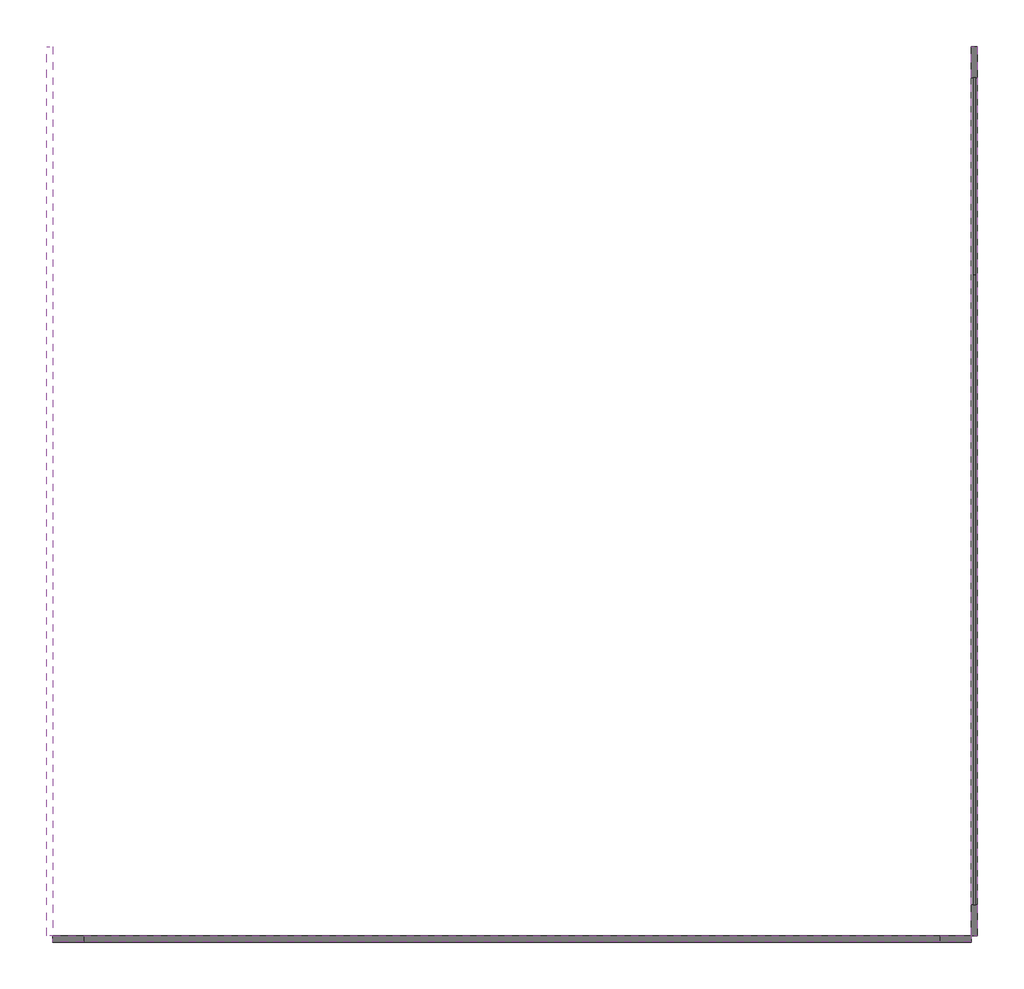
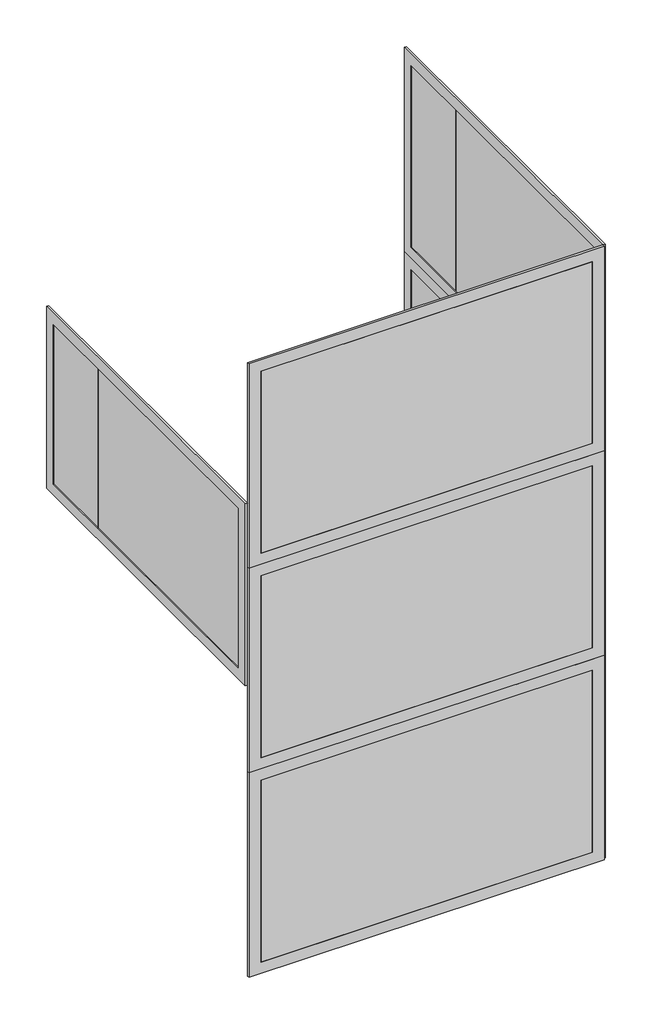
# One storey: 7 proxies.
"""IFC4 building model written with IfcOpenShell, lengths in millimetres."""

from ifc_helpers import new_model, si_unit, origin, place, context, project, spatial, transform, mapped, element, save
from components import a_side_glass_panel_flexible_height_8747b029, b_side_glass_panel_flexible_height_and_width_ffa260e1, c_side_glass_panel_flexible_height_and_width_e43f4e54

model = new_model("IFC4")

# Units and contexts
model_context = context("Model", 3, world=origin())
ifc_project = project(units=[si_unit("LENGTHUNIT", "METRE", prefix="MILLI")], contexts=[model_context])

# Site, building, storey
site = spatial("IfcSite", under=ifc_project)
building = spatial("IfcBuilding", under=site)
storey = spatial("IfcBuildingStorey", under=building, Name="Cibes - plan 0", Elevation=0.0)

# Proxies
placement = place(None, origin())
a_side_glass_panel_flexible_height_shape = a_side_glass_panel_flexible_height_8747b029(model_context)
element("IfcBuildingElementProxy", 1, Name="A-side_Glass Panel : Flexible Height", ObjectType="A-side_Glass Panel : Flexible Height", at=placement, inside=storey, context=model_context, shape_type="MappedRepresentation", body=[
    mapped(a_side_glass_panel_flexible_height_shape, transform((24984.9520027, 30099.6913541, 895.0118194), x_axis=(0.0, -1.0000000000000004, 0.0), y_axis=(1.0000000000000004, 0.0, 0.0), z_axis=(0.0, 0.0, 1.0))),
])
element("IfcBuildingElementProxy", 2, Name="A-side_Glass Panel : Flexible Height", ObjectType="A-side_Glass Panel : Flexible Height", at=placement, inside=storey, context=model_context, shape_type="MappedRepresentation", body=[
    mapped(a_side_glass_panel_flexible_height_shape, transform((24984.9520027, 30099.6913541, 1799.0118194), x_axis=(0.0, -1.0000000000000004, 0.0), y_axis=(1.0000000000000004, 0.0, 0.0), z_axis=(0.0, 0.0, 1.0))),
])
element("IfcBuildingElementProxy", 3, Name="A-side_Glass Panel : Flexible Height", ObjectType="A-side_Glass Panel : Flexible Height", at=placement, inside=storey, context=model_context, shape_type="MappedRepresentation", body=[
    mapped(a_side_glass_panel_flexible_height_shape, transform((24984.9520027, 30099.6913541, 2703.0118194), x_axis=(0.0, -1.0000000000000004, 0.0), y_axis=(1.0000000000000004, 0.0, 0.0), z_axis=(0.0, 0.0, 1.0))),
])
b_side_glass_panel_flexible_height_and_width_shape = b_side_glass_panel_flexible_height_and_width_ffa260e1(model_context)
element("IfcBuildingElementProxy", 4, Name="B-side_Glass Panel : Flexible Height and Width", ObjectType="B-side_Glass Panel : Flexible Height and Width", at=placement, inside=storey, context=model_context, shape_type="MappedRepresentation", body=[
    mapped(b_side_glass_panel_flexible_height_and_width_shape, transform((23507.9520026, 28659.6913539, 895.0118165), x_axis=(1.0, 0.0, 0.0), y_axis=(0.0, 1.0, 0.0), z_axis=(0.0, 0.0, 1.0))),
])
element("IfcBuildingElementProxy", 5, Name="B-side_Glass Panel : Flexible Height and Width", ObjectType="B-side_Glass Panel : Flexible Height and Width", at=placement, inside=storey, context=model_context, shape_type="MappedRepresentation", body=[
    mapped(b_side_glass_panel_flexible_height_and_width_shape, transform((23507.9520026, 28659.6913539, 1799.0118194), x_axis=(1.0, 0.0, 0.0), y_axis=(0.0, 1.0, 0.0), z_axis=(0.0, 0.0, 1.0))),
])
element("IfcBuildingElementProxy", 6, Name="B-side_Glass Panel : Flexible Height and Width", ObjectType="B-side_Glass Panel : Flexible Height and Width", at=placement, inside=storey, context=model_context, shape_type="MappedRepresentation", body=[
    mapped(b_side_glass_panel_flexible_height_and_width_shape, transform((23507.9520026, 28659.6913539, 2703.0118194), x_axis=(1.0, 0.0, 0.0), y_axis=(0.0, 1.0, 0.0), z_axis=(0.0, 0.0, 1.0))),
])
c_side_glass_panel_flexible_height_and_width_shape = c_side_glass_panel_flexible_height_and_width_e43f4e54(model_context)
element("IfcBuildingElementProxy", 7, Name="C-side_Glass Panel : Flexible Height and Width", ObjectType="C-side_Glass Panel : Flexible Height and Width", at=placement, inside=storey, context=model_context, shape_type="MappedRepresentation", body=[
    mapped(c_side_glass_panel_flexible_height_and_width_shape, transform((23487.9520026, 30099.6913539, 2181.0118165), x_axis=(0.0, -1.0000000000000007, 0.0), y_axis=(1.0000000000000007, 0.0, 0.0), z_axis=(0.0, 0.0, 1.0))),
])

save(model, "model.ifc")
